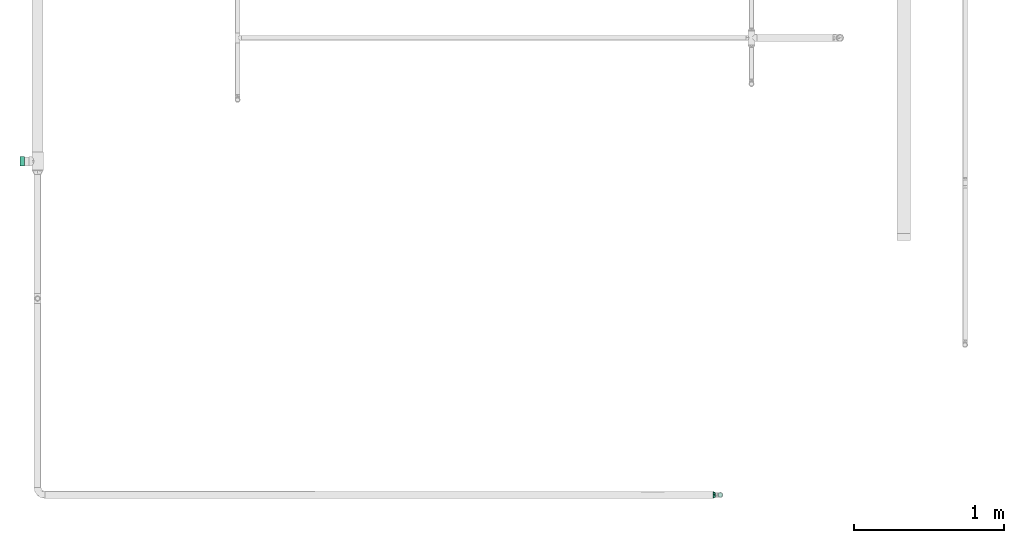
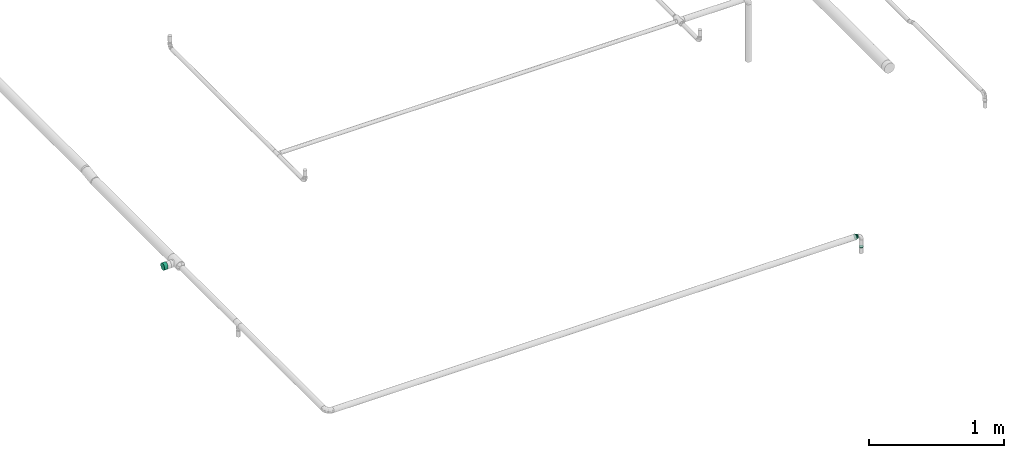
# One storey, part 30 of 32: 3 flow fittings.
"""IFC2X3 building model written with IfcOpenShell, lengths in millimetres."""

from ifc_helpers import new_model, entity, si_unit, converted_unit, derived_unit, direction, frame, origin_with_axes, place, context, subcontext, project, spatial, open_shell, surface_model, source, transform, mapped, type_object, element, save


model = new_model("IFC2X3")

# Units and contexts
model_context = context("Model", 3, precision=0.01, world=frame((0.0, 4.29681676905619e-09, 0.0)), true_north=direction((4.01073788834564e-13, 1.0)))
plan_context = context("Plan", 3, precision=0.01, world=frame((0.0, 4.29681676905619e-09, 0.0)), true_north=direction((4.01073788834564e-13, 1.0)))
body_context = subcontext(model_context, "Body", "Model", "MODEL_VIEW")
ifc_project = project(units=[converted_unit("PLANEANGLEUNIT", "DEGREE", entity("IfcPositiveLengthMeasure", 0.0174532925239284), si_unit("PLANEANGLEUNIT", "RADIAN"), dimensions=[0, 0, 0, 0, 0, 0, 0]), si_unit("AREAUNIT", "SQUARE_METRE"), si_unit("LENGTHUNIT", "METRE", prefix="MILLI"), si_unit("MASSUNIT", "GRAM", prefix="KILO"), si_unit("POWERUNIT", "WATT"), si_unit("PRESSUREUNIT", "PASCAL", prefix="KILO"), si_unit("FORCEUNIT", "NEWTON", prefix="KILO"), si_unit("ELECTRICVOLTAGEUNIT", "VOLT"), si_unit("ELECTRICCURRENTUNIT", "AMPERE"), si_unit("THERMODYNAMICTEMPERATUREUNIT", "DEGREE_CELSIUS"), si_unit("TIMEUNIT", "SECOND"), si_unit("VOLUMEUNIT", "CUBIC_METRE"), derived_unit("LINEARVELOCITYUNIT", [(si_unit("LENGTHUNIT", "METRE"), 1), (si_unit("TIMEUNIT", "SECOND"), -1)]), derived_unit("VOLUMETRICFLOWRATEUNIT", [(si_unit("VOLUMEUNIT", "CUBIC_METRE"), 1), (si_unit("TIMEUNIT", "SECOND"), -1)]), derived_unit("THERMALTRANSMITTANCEUNIT", [(si_unit("POWERUNIT", "WATT"), 1), (si_unit("THERMODYNAMICTEMPERATUREUNIT", "KELVIN"), -1), (si_unit("AREAUNIT", "SQUARE_METRE"), -1)]), derived_unit("SOUNDPRESSUREUNIT", [(si_unit("PRESSUREUNIT", "PASCAL"), 1)])], contexts=[model_context, plan_context])

# Site, building, storey
site_placement = place(None, frame((0.0, -4.29681676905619e-09, 0.0), z_axis=(0.0, 0.0, 1.0), x_axis=(1.0, 0.0, 0.0)))
site = spatial("IfcSite", under=ifc_project, at=site_placement, CompositionType="ELEMENT")
building_placement = place(site_placement, frame((0.0, 4.29681676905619e-09, 0.0), z_axis=(0.0, 0.0, 1.0), x_axis=(1.0, 0.0, 0.0)))
building = spatial("IfcBuilding", under=site, at=building_placement, Name="mc-building", CompositionType="ELEMENT")
storey_placement = place(building_placement, frame((0.0, 0.0, 205200.0), z_axis=(0.0, 0.0, 1.0), x_axis=(1.0, 0.0, 0.0)))
storey = spatial("IfcBuildingStorey", under=building, at=storey_placement, Name="Nivå D + 1,2 m", CompositionType="ELEMENT", Elevation=205200.0)

# Flow fittings
pipe_fitting_type_1 = type_object("IfcPipeFittingType", Name="magi_pipe_fe_reducer_centric_short_001", PredefinedType="TRANSITION")
shared_shape_1 = source(origin_with_axes(), body_context, "Body", "SurfaceModel", [
    surface_model("IfcShellBasedSurfaceModel", [(7.0, -12.94341, 3.46818), (7.0, -6.7, -11.60474), (7.0, -9.47523, -9.47523), (7.0, 9.47523, -9.47523), (7.0, 13.4, 0.0), (7.0, 0.0, -13.4), (0.0, -11.9501, -11.9501), (0.0, -16.9, 0.0), (0.0, 0.0, -16.9), (0.0, 11.9501, 11.9501), (0.0, 11.9501, -11.9501), (0.0, 16.9, 0.0), (9.0, -6.7, -11.60474), (9.0, -3.46818, -12.94341), (9.0, -13.4, 0.0), (9.0, -9.47523, -9.47523), (9.0, -12.94341, -3.46818), (9.0, -11.60474, -6.7), (9.0, 12.94341, -3.46818), (9.0, 3.46818, -12.94341), (9.0, 6.7, -11.60474), (9.0, 0.0, -13.4), (9.0, 11.60474, -6.7), (9.0, 9.47523, -9.47523), (9.0, -12.94341, 3.46818), (9.0, -9.47523, 9.47523), (9.0, -11.60474, 6.7), (9.0, 0.0, 13.4), (9.0, -3.46818, 12.94341), (9.0, -6.7, 11.60474), (9.0, 6.7, 11.60474), (9.0, 11.60474, 6.7), (9.0, 9.47523, 9.47523), (9.0, 12.94341, 3.46818), (9.0, 13.4, 0.0), (9.0, 3.46818, 12.94341), (7.0, -6.7, 11.60474), (7.0, -3.46818, 12.94341), (7.0, 0.0, 13.4), (7.0, 3.46818, 12.94341), (7.0, -11.60474, 6.7), (7.0, -9.47523, 9.47523), (7.0, 12.94341, 3.46818), (7.0, 6.7, 11.60474), (7.0, 9.47523, 9.47523), (7.0, 11.60474, 6.7), (7.0, 6.7, -11.60474), (7.0, -12.94341, -3.46818), (7.0, -11.60474, -6.7), (7.0, -3.46818, -12.94341), (7.0, 11.60474, -6.7), (7.0, 12.94341, -3.46818), (7.0, 3.46818, -12.94341), (7.0, -13.4, 0.0), (-2.0, -4.37404, 16.32415), (-2.0, 0.0, 16.9), (-2.0, -11.9501, 11.9501), (-2.0, -8.45, 14.63583), (-2.0, -16.32415, 4.37404), (-2.0, -14.63583, 8.45), (-2.0, 16.32415, 4.37404), (-2.0, 11.9501, 11.9501), (-2.0, 14.63583, 8.45), (-2.0, 8.45, 14.63583), (-2.0, 4.37404, 16.32415), (-2.0, 16.9, 0.0), (-2.0, 16.32415, -4.37404), (-2.0, 8.45, -14.63583), (-2.0, -11.9501, -11.9501), (-2.0, -16.32415, -4.37404), (-2.0, -14.63583, -8.45), (-2.0, -4.37404, -16.32415), (-2.0, -8.45, -14.63583), (-2.0, 0.0, -16.9), (-2.0, 14.63583, -8.45), (-2.0, 11.9501, -11.9501), (-2.0, 4.37404, -16.32415), (-2.0, -16.9, 0.0), (0.0, -8.45, -14.63583), (0.0, -4.37404, -16.32415), (0.0, 8.45, -14.63583), (0.0, -14.63583, -8.45), (0.0, -16.32415, -4.37404), (0.0, -4.37404, 16.32415), (0.0, 4.37404, -16.32415), (0.0, 14.63583, -8.45), (0.0, 16.32415, -4.37404), (0.0, -16.32415, 4.37404), (0.0, -11.9501, 11.9501), (0.0, -14.63583, 8.45), (0.0, -8.45, 14.63583), (0.0, 0.0, 16.9), (0.0, 16.32415, 4.37404), (0.0, 14.63583, 8.45), (0.0, 8.45, 14.63583), (0.0, 4.37404, 16.32415), (7.0, -10.491, -7.02294), (0.0, -14.42505, -5.97505), (0.0, -13.18758, -8.96258), (7.0, -12.45339, -2.28533), (0.0, -15.66253, -2.98753), (7.0, -11.50677, -4.57065), (0.0, -2.98753, -15.66253), (7.0, -4.73762, -11.43761), (0.0, -8.96258, -13.18758), (0.0, -5.97505, -14.42505), (7.0, -7.10642, -10.45642), (7.0, -2.36881, -12.41881), (7.0, 12.41881, -2.36881), (7.0, 11.43761, -4.73762), (0.0, 14.42505, -5.97505), (7.0, 2.36881, -12.41881), (7.0, 10.45642, -7.10642), (0.0, 15.70614, -2.88224), (0.0, 13.18758, -8.96258), (0.0, 5.97505, -14.42505), (7.0, 7.10642, -10.45642), (7.0, 4.73762, -11.43761), (0.0, 2.98753, -15.66253), (0.0, 8.96258, -13.18758), (7.0, 10.491, 7.02294), (0.0, 14.42505, 5.97505), (0.0, 13.18758, 8.96258), (7.0, 12.45339, 2.28533), (0.0, 15.66253, 2.98753), (7.0, 11.50677, 4.57065), (0.0, 2.98753, 15.66253), (7.0, 4.73762, 11.43761), (0.0, 8.96258, 13.18758), (0.0, 5.97505, 14.42505), (7.0, 7.10642, 10.45642), (7.0, 2.36881, 12.41881), (7.0, -12.41881, 2.36881), (7.0, -11.43761, 4.73762), (0.0, -14.42505, 5.97505), (7.0, -2.36881, 12.41881), (7.0, -10.45642, 7.10642), (0.0, -15.70614, 2.88224), (0.0, -13.18758, 8.96258), (0.0, -5.97505, 14.42505), (7.0, -7.10642, 10.45642), (7.0, -4.73762, 11.43761), (0.0, -2.98753, 15.66253), (0.0, -8.96258, 13.18758)], [open_shell([[[0, 1, 2]], [[3, 4, 5]], [[6, 7, 8]], [[9, 10, 7]], [[8, 7, 10]], [[10, 9, 11]], [[12, 13, 14]], [[15, 12, 14]], [[15, 14, 16]], [[17, 15, 16]], [[18, 14, 13]], [[19, 20, 21]], [[20, 13, 21]], [[22, 18, 23]], [[20, 23, 18]], [[20, 18, 13]], [[18, 24, 14]], [[25, 26, 24]], [[27, 25, 24]], [[27, 28, 29]], [[25, 27, 29]], [[30, 27, 24]], [[31, 32, 33]], [[33, 18, 34]], [[32, 30, 33]], [[30, 24, 33]], [[27, 30, 35]], [[24, 18, 33]], [[36, 37, 38]], [[36, 38, 39]], [[0, 40, 41]], [[39, 41, 36]], [[41, 42, 0]], [[43, 44, 39]], [[42, 39, 44]], [[45, 42, 44]], [[42, 41, 39]], [[4, 46, 42]], [[46, 0, 42]], [[2, 47, 0]], [[48, 47, 2]], [[1, 0, 46]], [[49, 1, 46]], [[50, 3, 51]], [[3, 4, 51]], [[52, 5, 46]], [[3, 46, 4]], [[46, 5, 49]], [[53, 0, 47]], [[4, 18, 51]], [[51, 22, 50]], [[46, 3, 20]], [[23, 3, 50]], [[52, 46, 19]], [[18, 22, 51]], [[4, 34, 18]], [[46, 20, 19]], [[20, 3, 23]], [[50, 22, 23]], [[52, 19, 21]], [[21, 5, 52]], [[5, 13, 49]], [[49, 12, 1]], [[48, 2, 17]], [[15, 2, 1]], [[47, 48, 16]], [[12, 15, 1]], [[49, 13, 12]], [[47, 16, 14]], [[16, 48, 17]], [[2, 15, 17]], [[47, 14, 53]], [[21, 13, 5]], [[53, 24, 0]], [[0, 26, 40]], [[36, 41, 29]], [[25, 41, 40]], [[37, 36, 28]], [[24, 26, 0]], [[53, 14, 24]], [[36, 29, 28]], [[29, 41, 25]], [[40, 26, 25]], [[37, 28, 27]], [[27, 38, 37]], [[38, 35, 39]], [[39, 30, 43]], [[45, 44, 31]], [[32, 44, 43]], [[42, 45, 33]], [[30, 32, 43]], [[39, 35, 30]], [[42, 33, 34]], [[33, 45, 31]], [[44, 32, 31]], [[42, 34, 4]], [[27, 35, 38]], [[54, 55, 56]], [[57, 54, 56]], [[58, 59, 56]], [[55, 58, 56]], [[60, 58, 55]], [[61, 62, 63]], [[55, 64, 63]], [[55, 63, 62]], [[62, 60, 55]], [[65, 66, 60]], [[67, 58, 60]], [[68, 69, 58]], [[70, 69, 68]], [[71, 72, 68]], [[68, 58, 67]], [[68, 73, 71]], [[74, 75, 66]], [[67, 66, 75]], [[76, 73, 67]], [[67, 60, 66]], [[67, 73, 68]], [[77, 58, 69]], [[6, 78, 79]], [[6, 79, 8]], [[80, 11, 6]], [[81, 6, 82]], [[6, 83, 82]], [[84, 80, 8]], [[80, 6, 8]], [[85, 86, 10]], [[80, 10, 86]], [[86, 11, 80]], [[87, 7, 82]], [[88, 89, 87]], [[83, 88, 87]], [[6, 11, 83]], [[90, 88, 83]], [[91, 83, 11]], [[92, 93, 91]], [[91, 11, 92]], [[9, 94, 93]], [[94, 91, 93]], [[95, 91, 94]], [[87, 82, 83]], [[65, 86, 66]], [[66, 85, 74]], [[67, 75, 80]], [[10, 75, 74]], [[76, 67, 84]], [[86, 85, 66]], [[65, 11, 86]], [[67, 80, 84]], [[80, 75, 10]], [[74, 85, 10]], [[76, 84, 8]], [[8, 73, 76]], [[73, 79, 71]], [[71, 78, 72]], [[70, 68, 81]], [[6, 68, 72]], [[69, 70, 82]], [[78, 6, 72]], [[71, 79, 78]], [[69, 82, 7]], [[82, 70, 81]], [[68, 6, 81]], [[69, 7, 77]], [[8, 79, 73]], [[77, 87, 58]], [[58, 89, 59]], [[57, 56, 90]], [[88, 56, 59]], [[54, 57, 83]], [[87, 89, 58]], [[77, 7, 87]], [[57, 90, 83]], [[90, 56, 88]], [[59, 89, 88]], [[54, 83, 91]], [[91, 55, 54]], [[55, 95, 64]], [[64, 94, 63]], [[62, 61, 93]], [[9, 61, 63]], [[60, 62, 92]], [[94, 9, 63]], [[64, 95, 94]], [[60, 92, 11]], [[92, 62, 93]], [[61, 9, 93]], [[60, 11, 65]], [[91, 95, 55]], [[41, 4, 44]], [[44, 38, 41]], [[41, 5, 4]], [[5, 41, 2]], [[2, 41, 53]], [[9, 7, 88]], [[88, 91, 9]], [[96, 97, 98]], [[99, 100, 101]], [[99, 53, 7]], [[102, 8, 5]], [[103, 104, 105]], [[106, 6, 104]], [[98, 6, 2]], [[102, 107, 105]], [[108, 109, 110]], [[100, 99, 7]], [[111, 5, 8]], [[3, 10, 112]], [[113, 4, 108]], [[112, 114, 109]], [[114, 112, 10]], [[115, 116, 117]], [[111, 118, 117]], [[107, 102, 5]], [[119, 3, 116]], [[118, 111, 8]], [[96, 101, 97]], [[96, 98, 2]], [[97, 101, 100]], [[106, 2, 6]], [[106, 104, 103]], [[103, 105, 107]], [[113, 11, 4]], [[113, 108, 110]], [[110, 109, 114]], [[119, 10, 3]], [[119, 116, 115]], [[115, 117, 118]], [[120, 121, 122]], [[123, 124, 125]], [[123, 4, 11]], [[126, 91, 38]], [[127, 128, 129]], [[130, 9, 128]], [[122, 9, 44]], [[126, 131, 129]], [[132, 133, 134]], [[124, 123, 11]], [[135, 38, 91]], [[41, 88, 136]], [[137, 53, 132]], [[136, 138, 133]], [[138, 136, 88]], [[139, 140, 141]], [[135, 142, 141]], [[131, 126, 38]], [[143, 41, 140]], [[142, 135, 91]], [[120, 125, 121]], [[120, 122, 44]], [[121, 125, 124]], [[130, 44, 9]], [[130, 128, 127]], [[127, 129, 131]], [[137, 7, 53]], [[137, 132, 134]], [[134, 133, 138]], [[143, 88, 41]], [[143, 140, 139]], [[139, 141, 142]]])]),
])
flow_fitting_1_placement = place(storey_placement, frame((328061.66407, 459420.27932, 4243.93299), z_axis=(0.0, -1.0, 0.0), x_axis=(0.0, 0.0, -1.0)))
element("IfcFlowFitting", 1, at=flow_fitting_1_placement, inside=storey, type_object=pipe_fitting_type_1, Name="magi_pipe_fe_reducer_centric_short_001", context=body_context, shape_type="MappedRepresentation", body=[
    mapped(shared_shape_1, transform((0.0, 0.0, 0.0), scale=1.0)),
])
shared_shape_2 = source(origin_with_axes(), body_context, "Body", "SurfaceModel", [
    surface_model("IfcShellBasedSurfaceModel", [(-2.0, 11.9501, 11.9501), (-2.0, 0.0, 16.9), (-2.0, 4.37404, 16.32415), (-2.0, 8.45, 14.63583), (-2.0, 14.63583, 8.45), (-2.0, 16.32415, 4.37404), (-2.0, -16.32415, 4.37404), (-2.0, -8.45, 14.63583), (-2.0, -14.63583, 8.45), (-2.0, -11.9501, 11.9501), (-2.0, -4.37404, 16.32415), (-2.0, -16.32415, -4.37404), (-2.0, -16.9, 0.0), (-2.0, -8.45, -14.63583), (-2.0, 16.32415, -4.37404), (-2.0, 11.9501, -11.9501), (-2.0, 14.63583, -8.45), (-2.0, 8.45, -14.63583), (-2.0, 4.37404, -16.32415), (-2.0, 0.0, -16.9), (-2.0, -11.9501, -11.9501), (-2.0, -14.63583, -8.45), (-2.0, -4.37404, -16.32415), (-2.0, 16.9, 0.0), (0.0, 4.37404, -16.32415), (0.0, 8.45, -14.63583), (0.0, 11.9501, -11.9501), (0.0, 0.0, -16.9), (0.0, 16.32415, -4.37404), (0.0, 16.32415, 4.37404), (0.0, 14.63583, -8.45), (0.0, -8.45, -14.63583), (0.0, -4.37404, -16.32415), (0.0, -11.9501, -11.9501), (0.0, -16.32415, -4.37404), (0.0, -14.63583, -8.45), (0.0, -16.32415, 4.37404), (0.0, 16.9, 0.0), (0.0, 14.63583, 8.45), (0.0, 11.9501, 11.9501), (0.0, 4.37404, 16.32415), (0.0, 8.45, 14.63583), (0.0, 0.0, 16.9), (0.0, -14.63583, 8.45), (0.0, -16.9, 0.0), (0.0, -8.45, 14.63583), (0.0, -11.9501, 11.9501), (0.0, -4.37404, 16.32415), (16.6, 12.1, -20.95781), (16.6, -24.2, 0.0), (16.6, 6.26342, -23.37541), (16.6, 23.37541, -6.26342), (16.6, 17.11198, -17.11198), (16.6, 20.95781, -12.1), (16.6, -17.11198, -17.11198), (16.6, -6.26342, -23.37541), (16.6, -12.1, -20.95781), (16.6, 0.0, -24.2), (16.6, -23.37541, -6.26342), (16.6, -20.95781, -12.1), (16.6, 24.2, 0.0), (16.6, 23.37541, 6.26342), (16.6, 20.95781, 12.1), (16.6, 17.11198, 17.11198), (16.6, 12.1, 20.95781), (16.6, 6.26342, 23.37541), (16.6, 0.0, 24.2), (16.6, -23.37541, 6.26342), (16.6, -17.11198, 17.11198), (16.6, -20.95781, 12.1), (16.6, -6.26342, 23.37541), (16.6, -12.1, 20.95781), (14.6, 0.0, 24.2), (14.6, 6.26342, 23.37541), (14.6, 12.1, 20.95781), (14.6, 17.11198, 17.11198), (14.6, 20.95781, 12.1), (14.6, 23.37541, 6.26342), (14.6, -23.37541, 6.26342), (14.6, -17.11198, -17.11198), (14.6, -6.26342, 23.37541), (14.6, -17.11198, 17.11198), (14.6, -12.1, 20.95781), (14.6, -20.95781, 12.1), (14.6, -24.2, 0.0), (14.6, 24.2, 0.0), (14.6, 17.11198, -17.11198), (14.6, 23.37541, -6.26342), (14.6, 20.95781, -12.1), (14.6, 12.1, -20.95781), (14.6, 6.26342, -23.37541), (14.6, -23.37541, -6.26342), (14.6, -20.95781, -12.1), (14.6, -6.26342, -23.37541), (14.6, -12.1, -20.95781), (14.6, 0.0, -24.2), (14.6, 7.47821, 23.01557), (14.6, -7.47821, 23.01557), (14.6, 19.57821, -14.2244), (14.6, 19.57821, 14.2244), (14.6, -19.57821, 14.2244), (14.6, -19.57821, -14.2244), (14.6, 7.47821, -23.01557), (14.6, -7.47821, -23.01557), (0.0, 13.18758, -8.96258), (0.0, -5.97505, -14.42505), (14.6, -13.52821, -18.61999), (0.0, 14.42505, -5.97505), (14.6, 21.8891, -7.1122), (14.6, 20.73366, -10.6683), (0.0, -8.96258, -13.18758), (0.0, -14.42505, -5.97505), (0.0, -13.18758, -8.96258), (14.6, 0.0, -23.01557), (0.0, -2.98753, -15.66253), (14.6, 13.52821, -18.61999), (0.0, -15.66253, -2.98753), (14.6, -21.8891, -7.1122), (0.0, 2.98753, -15.66253), (0.0, 15.66253, -2.98753), (0.0, 5.97505, -14.42505), (0.0, 8.96258, -13.18758), (0.0, -13.18758, 8.96258), (0.0, 5.97505, 14.42505), (14.6, 13.52821, 18.61999), (0.0, -14.42505, 5.97505), (14.6, -21.8891, 7.1122), (14.6, -20.73366, 10.6683), (0.0, 8.96258, 13.18758), (0.0, 14.42505, 5.97505), (0.0, 13.18758, 8.96258), (14.6, 0.0, 23.01557), (0.0, 2.98753, 15.66253), (14.6, -13.52821, 18.61999), (0.0, 15.66253, 2.98753), (14.6, 21.8891, 7.1122), (0.0, -2.98753, 15.66253), (0.0, -15.66253, 2.98753), (0.0, -5.97505, 14.42505), (0.0, -8.96258, 13.18758)], [open_shell([[[0, 1, 2]], [[0, 2, 3]], [[0, 4, 5]], [[0, 5, 1]], [[1, 5, 6]], [[7, 8, 9]], [[7, 10, 1]], [[8, 7, 1]], [[1, 6, 8]], [[6, 11, 12]], [[6, 5, 13]], [[5, 14, 15]], [[15, 14, 16]], [[15, 17, 18]], [[13, 5, 15]], [[19, 15, 18]], [[11, 20, 21]], [[20, 11, 13]], [[13, 19, 22]], [[11, 6, 13]], [[15, 19, 13]], [[5, 23, 14]], [[24, 25, 26]], [[27, 24, 26]], [[26, 28, 29]], [[28, 26, 30]], [[26, 29, 31]], [[27, 31, 32]], [[27, 26, 31]], [[33, 34, 35]], [[34, 33, 31]], [[31, 36, 34]], [[29, 28, 37]], [[29, 38, 39]], [[29, 39, 40]], [[40, 36, 31]], [[40, 39, 41]], [[36, 40, 42]], [[42, 43, 36]], [[44, 34, 36]], [[43, 45, 46]], [[43, 42, 45]], [[45, 42, 47]], [[31, 29, 40]], [[11, 34, 12]], [[21, 35, 11]], [[31, 20, 13]], [[21, 20, 33]], [[32, 13, 22]], [[11, 35, 34]], [[34, 44, 12]], [[32, 31, 13]], [[33, 20, 31]], [[33, 35, 21]], [[27, 32, 22]], [[22, 19, 27]], [[18, 24, 19]], [[17, 25, 18]], [[30, 15, 16]], [[17, 15, 26]], [[28, 16, 14]], [[17, 26, 25]], [[25, 24, 18]], [[37, 28, 14]], [[30, 16, 28]], [[30, 26, 15]], [[23, 37, 14]], [[19, 24, 27]], [[5, 29, 23]], [[4, 38, 5]], [[41, 0, 3]], [[4, 0, 39]], [[40, 3, 2]], [[5, 38, 29]], [[29, 37, 23]], [[40, 41, 3]], [[39, 0, 41]], [[39, 38, 4]], [[42, 40, 2]], [[2, 1, 42]], [[10, 47, 1]], [[7, 45, 10]], [[43, 9, 8]], [[7, 9, 46]], [[36, 8, 6]], [[7, 46, 45]], [[45, 47, 10]], [[44, 36, 6]], [[43, 8, 36]], [[43, 46, 9]], [[12, 44, 6]], [[1, 47, 42]], [[33, 44, 46]], [[37, 42, 39]], [[37, 26, 33]], [[27, 33, 26]], [[37, 33, 42]], [[48, 49, 50]], [[51, 48, 52]], [[48, 51, 49]], [[51, 52, 53]], [[49, 54, 50]], [[55, 54, 56]], [[55, 57, 50]], [[54, 58, 59]], [[55, 50, 54]], [[54, 49, 58]], [[60, 49, 51]], [[61, 62, 63]], [[60, 63, 49]], [[64, 65, 66]], [[64, 66, 63]], [[49, 63, 66]], [[67, 68, 69]], [[70, 67, 49]], [[68, 70, 71]], [[70, 68, 67]], [[49, 66, 70]], [[63, 60, 61]], [[72, 73, 74]], [[72, 74, 75]], [[75, 76, 77]], [[72, 75, 78]], [[75, 79, 78]], [[80, 81, 82]], [[80, 72, 81]], [[81, 78, 83]], [[72, 78, 81]], [[78, 79, 84]], [[75, 77, 85]], [[86, 85, 87]], [[86, 87, 88]], [[89, 90, 85]], [[89, 85, 86]], [[90, 79, 75]], [[91, 79, 92]], [[84, 79, 91]], [[79, 93, 94]], [[79, 90, 93]], [[95, 93, 90]], [[75, 85, 90]], [[91, 58, 84]], [[92, 59, 91]], [[56, 79, 94]], [[92, 79, 54]], [[55, 94, 93]], [[91, 59, 58]], [[58, 49, 84]], [[55, 56, 94]], [[54, 79, 56]], [[54, 59, 92]], [[57, 55, 93]], [[93, 95, 57]], [[90, 50, 95]], [[89, 48, 90]], [[53, 86, 88]], [[89, 86, 52]], [[51, 88, 87]], [[89, 52, 48]], [[48, 50, 90]], [[60, 51, 87]], [[53, 88, 51]], [[53, 52, 86]], [[85, 60, 87]], [[95, 50, 57]], [[77, 61, 85]], [[76, 62, 77]], [[64, 75, 74]], [[76, 75, 63]], [[65, 74, 73]], [[77, 62, 61]], [[61, 60, 85]], [[65, 64, 74]], [[63, 75, 64]], [[63, 62, 76]], [[66, 65, 73]], [[73, 72, 66]], [[80, 70, 72]], [[82, 71, 80]], [[69, 81, 83]], [[82, 81, 68]], [[67, 83, 78]], [[82, 68, 71]], [[71, 70, 80]], [[49, 67, 78]], [[69, 83, 67]], [[69, 68, 81]], [[84, 49, 78]], [[72, 70, 66]], [[96, 97, 84]], [[96, 98, 99]], [[85, 99, 98]], [[100, 84, 97]], [[84, 101, 98]], [[101, 102, 98]], [[102, 101, 103]], [[84, 98, 96]], [[46, 42, 33]], [[98, 26, 104]], [[105, 103, 106]], [[107, 108, 109]], [[106, 110, 105]], [[101, 111, 112]], [[106, 101, 33]], [[113, 114, 27]], [[112, 33, 101]], [[26, 98, 115]], [[84, 116, 117]], [[118, 113, 27]], [[85, 119, 37]], [[111, 101, 117]], [[115, 120, 121]], [[119, 85, 108]], [[113, 118, 102]], [[103, 105, 114]], [[103, 114, 113]], [[118, 120, 102]], [[116, 84, 44]], [[107, 119, 108]], [[98, 104, 109]], [[104, 107, 109]], [[106, 33, 110]], [[120, 115, 102]], [[121, 26, 115]], [[116, 111, 117]], [[100, 46, 122]], [[123, 96, 124]], [[125, 126, 127]], [[124, 128, 123]], [[99, 129, 130]], [[124, 99, 39]], [[131, 132, 42]], [[130, 39, 99]], [[46, 100, 133]], [[85, 134, 135]], [[136, 131, 42]], [[84, 137, 44]], [[129, 99, 135]], [[133, 138, 139]], [[137, 84, 126]], [[131, 136, 97]], [[96, 123, 132]], [[96, 132, 131]], [[136, 138, 97]], [[134, 85, 37]], [[125, 137, 126]], [[100, 122, 127]], [[122, 125, 127]], [[124, 39, 128]], [[138, 133, 97]], [[139, 46, 133]], [[134, 129, 135]]])]),
])
flow_fitting_2_placement = place(storey_placement, frame((328027.86407, 459420.28834, 4347.43145999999), z_axis=(0.0, 0.0, 1.0), x_axis=(-0.999999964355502, 0.000266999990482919, 0.0)))
element("IfcFlowFitting", 2, at=flow_fitting_2_placement, inside=storey, type_object=pipe_fitting_type_1, Name="magi_pipe_fe_reducer_centric_short_001", context=body_context, shape_type="MappedRepresentation", body=[
    mapped(shared_shape_2, transform((0.0, 0.0, 0.0), scale=1.0)),
])
pipe_fitting_type_2 = type_object("IfcPipeFittingType", Name="magi_pipe_fe_plug_001", PredefinedType="OBSTRUCTION")
shared_shape_3 = source(origin_with_axes(), body_context, "Body", "SurfaceModel", [
    surface_model("IfcShellBasedSurfaceModel", [(0.0, 7.81634, -29.17096), (0.0, 0.0, -30.2), (0.0, 29.17096, -7.81634), (0.0, 15.1, -26.15397), (0.0, 21.35462, -21.35462), (0.0, 26.15397, -15.1), (0.0, -15.1, -26.15397), (0.0, -21.35462, -21.35462), (0.0, -29.17096, -7.81634), (0.0, -7.81634, -29.17096), (0.0, -26.15397, -15.1), (0.0, -30.2, 0.0), (0.0, 30.2, 0.0), (0.0, 26.15397, 15.1), (0.0, 29.17096, 7.81634), (0.0, -15.1, 26.15397), (0.0, 7.81634, 29.17096), (0.0, 15.1, 26.15397), (0.0, 21.35462, 21.35462), (0.0, 0.0, 30.2), (0.0, -29.17096, 7.81634), (0.0, -26.15397, 15.1), (0.0, -21.35462, 21.35462), (0.0, -7.81634, 29.17096), (30.2, 0.0, -30.2), (30.2, 7.81634, -29.17096), (30.2, 15.1, -26.15397), (30.2, 21.35462, -21.35462), (30.2, -7.81634, -29.17096), (30.2, 26.15397, -15.1), (30.2, 29.17096, -7.81634), (30.2, -21.35462, -21.35462), (30.2, -15.1, -26.15397), (30.2, -29.17096, -7.81634), (30.2, -26.15397, -15.1), (30.2, -30.2, 0.0), (30.2, 30.2, 0.0), (30.2, 29.17096, 7.81634), (30.2, 26.15397, 15.1), (30.2, -29.17096, 7.81634), (30.2, 15.1, 26.15397), (30.2, 7.81634, 29.17096), (30.2, 21.35462, 21.35462), (30.2, -21.35462, 21.35462), (30.2, -26.15397, 15.1), (30.2, -15.1, 26.15397), (30.2, 0.0, 30.2), (30.2, -7.81634, 29.17096)], [open_shell([[[0, 1, 2]], [[3, 0, 4]], [[2, 5, 4]], [[0, 2, 4]], [[6, 2, 1]], [[7, 8, 6]], [[1, 9, 6]], [[10, 8, 7]], [[11, 6, 8]], [[6, 11, 2]], [[11, 12, 2]], [[13, 14, 12]], [[13, 12, 15]], [[13, 16, 17]], [[18, 13, 17]], [[16, 13, 19]], [[20, 21, 11]], [[11, 21, 22]], [[23, 19, 15]], [[22, 15, 11]], [[15, 19, 13]], [[15, 12, 11]], [[24, 25, 26]], [[24, 26, 27]], [[28, 27, 29]], [[27, 28, 24]], [[28, 29, 30]], [[28, 31, 32]], [[31, 28, 33]], [[31, 33, 34]], [[33, 28, 35]], [[28, 30, 35]], [[30, 36, 35]], [[36, 37, 38]], [[39, 36, 38]], [[40, 41, 38]], [[40, 38, 42]], [[43, 38, 41]], [[39, 43, 44]], [[39, 38, 43]], [[45, 46, 47]], [[46, 45, 43]], [[41, 46, 43]], [[36, 39, 35]], [[39, 11, 35]], [[44, 20, 39]], [[22, 43, 45]], [[44, 43, 21]], [[15, 45, 47]], [[44, 21, 20]], [[20, 11, 39]], [[23, 46, 19]], [[23, 15, 47]], [[22, 45, 15]], [[22, 21, 43]], [[46, 23, 47]], [[17, 40, 42]], [[41, 40, 17]], [[14, 38, 37]], [[38, 13, 42]], [[36, 12, 37]], [[41, 16, 19]], [[16, 41, 17]], [[17, 42, 18]], [[42, 13, 18]], [[14, 13, 38]], [[37, 12, 14]], [[41, 19, 46]], [[30, 12, 36]], [[29, 2, 30]], [[4, 27, 26]], [[29, 27, 5]], [[3, 26, 25]], [[29, 5, 2]], [[2, 12, 30]], [[0, 24, 1]], [[0, 3, 25]], [[4, 26, 3]], [[4, 5, 27]], [[24, 0, 25]], [[9, 28, 32]], [[6, 32, 31]], [[8, 34, 33]], [[11, 33, 35]], [[31, 34, 7]], [[32, 6, 9]], [[9, 1, 28]], [[7, 34, 10]], [[10, 34, 8]], [[33, 11, 8]], [[7, 6, 31]], [[28, 1, 24]]])]),
])
flow_fitting_3_placement = place(storey_placement, frame((323410.35, 461650.99192, 4347.43145999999), z_axis=(0.0, 0.0, 1.0), x_axis=(-1.0, 0.0, 0.0)))
element("IfcFlowFitting", 3, at=flow_fitting_3_placement, inside=storey, type_object=pipe_fitting_type_2, Name="magi_pipe_fe_plug_001", context=body_context, shape_type="MappedRepresentation", body=[
    mapped(shared_shape_3, transform((0.0, 0.0, 0.0), scale=1.0)),
])

save(model, "model.ifc")
